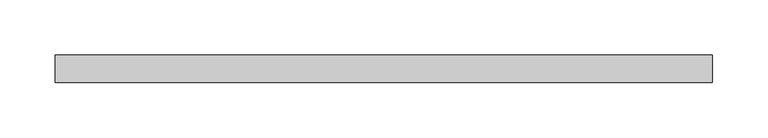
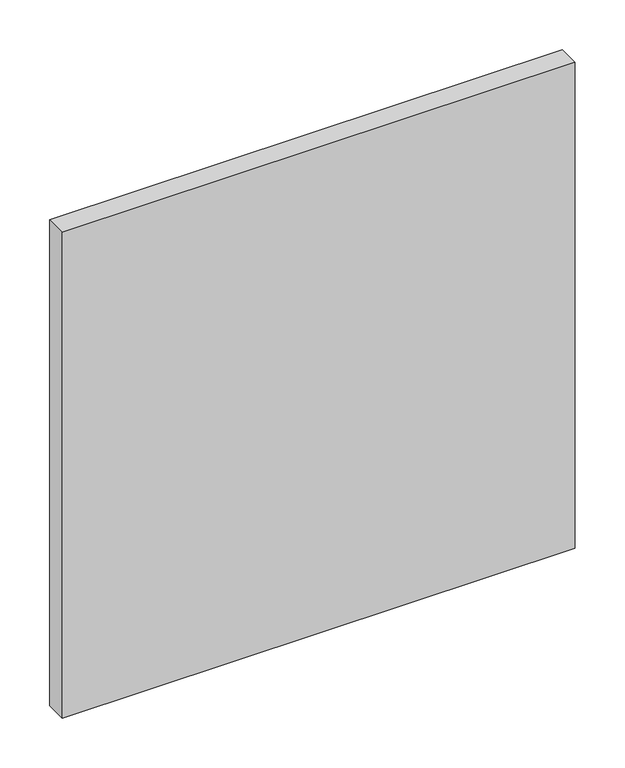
"""IFC4 building model written with IfcOpenShell, lengths in millimetres: valve geometry, Pipelife - Stormbox II - Płyta boczna ażurowa : Płyta boczna ażurowa."""

from ifc_helpers import new_model, si_unit, frame, origin, place, context, project, spatial, polyline, outline, extrude, source, transform, mapped, element, save


def valve_eda81de8(model_context):
    return source(origin(), model_context, "Body", "SweptSolid", [
        extrude(outline(polyline([(-297.0, 0.0), (-297.0, 25.0), (297.0, 25.0), (297.0, 0.0), (-297.0, 0.0)])), frame((0.0, 0.0, -297.5), z_axis=(0.0, 0.0, 1.0), x_axis=(1.0, 0.0, 0.0)), (0.0, 0.0, 1.0), 595.0),
    ])


if __name__ == "__main__":
    model = new_model("IFC4")
    model_context = context("Model", 3, world=origin())
    ifc_project = project(units=[si_unit("LENGTHUNIT", "METRE", prefix="MILLI")], contexts=[model_context])
    site = spatial("IfcSite", under=ifc_project)
    building = spatial("IfcBuilding", under=site)
    placement = place(None, origin())
    valve_shape = valve_eda81de8(model_context)
    element("IfcValve", 1, ObjectType="Pipelife - Stormbox II - Płyta boczna ażurowa : Płyta boczna ażurowa", at=placement, inside=building, context=model_context, shape_type="MappedRepresentation", body=[
        mapped(valve_shape, transform((0.0, 0.0, 0.0), x_axis=(1.0, 0.0, 0.0), y_axis=(0.0, 1.0, 0.0), z_axis=(0.0, 0.0, 1.0))),
    ])
    save(model, "model.ifc")
